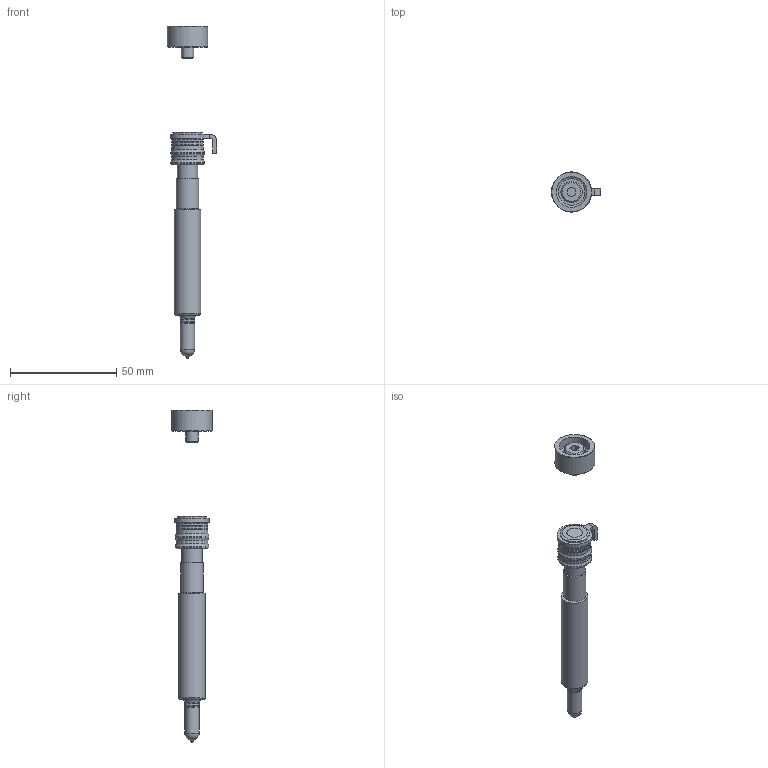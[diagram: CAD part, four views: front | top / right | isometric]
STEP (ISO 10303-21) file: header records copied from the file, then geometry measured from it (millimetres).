
FILE_DESCRIPTION(/* description */ (''),/* implementation_level */ '2;1');
FILE_NAME(/* name */ 'U250 HT-TX_mzong_20220329.stp',/* time_stamp */ '2022-03-29T16:25:38+08:00',/* author */ (''),/* organization */ (''),/* preprocessor_version */ 'ST-DEVELOPER v16',/* originating_system */ 'SIEMENS PLM Software NX 11.0',/* authorisation */ '');
FILE_SCHEMA (('AUTOMOTIVE_DESIGN { 1 0 10303 214 3 1 1 1 }'));
Length unit declared in the file: millimetre
Products named in the file (1): 11487856_0_1
Bounding box: 23.18 x 19 x 156.31 mm (x, y, z)
Volume: 21296.3 mm3; surface area: 12435.5 mm2
Topology: 12 solids, 12 shells, 173 faces, 343 edges, 206 vertices
Faces by surface type: plane 69, cylinder 46, cone 37, torus 16, bspline 4, sphere 1
Full cylindrical faces by diameter (mm): 0.7 x1, 4.5 x2, 4.73 x1, 4.967 x1, 5.5 x1, 5.795 x1, 6 x1, 6.45 x1, 6.465 x1, 6.5 x1, 6.8 x1, 6.995 x1, 7 x1, 7.1 x1, 9.56 x2, 10 x1, 10.61 x1, 12.5 x1, 13.8 x1, 14.5 x1, 15 x6, 15.99 x2, 19 x1
Entity records: 4253 total; most frequent: CARTESIAN_POINT 934, DIRECTION 706, ORIENTED_EDGE 522, AXIS2_PLACEMENT_3D 311, EDGE_CURVE 261, EDGE_LOOP 254, VERTEX_POINT 193, ADVANCED_FACE 173
